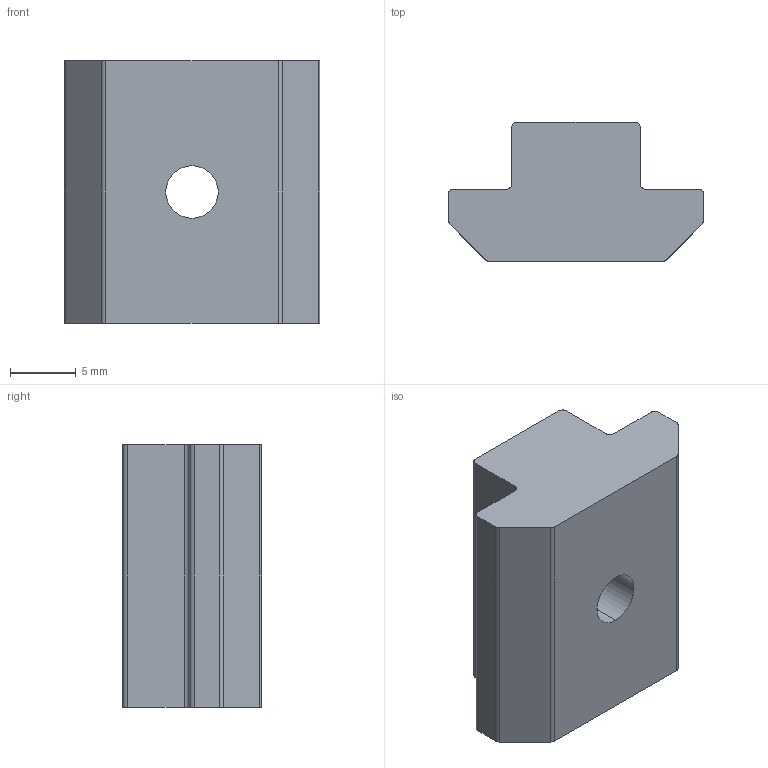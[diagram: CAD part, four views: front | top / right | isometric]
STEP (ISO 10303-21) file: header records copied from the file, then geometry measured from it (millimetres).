
FILE_DESCRIPTION (( 'STEP AP214' ), '1' );
FILE_NAME ('096035.STEP', '2012-02-22T10:24:28', ( 'de01pc046' ), ( 'Fath GmbH' ), 'SwSTEP 2.0', 'SolidWorks 2011', '' );
FILE_SCHEMA (( 'AUTOMOTIVE_DESIGN' ));
Length unit declared in the file: millimetre
Products named in the file (1): 096035
Bounding box: 19.5 x 10.6 x 20 mm (x, y, z)
Volume: 2829.7 mm3; surface area: 1516.1 mm2
Topology: 1 solids, 1 shells, 24 faces, 66 edges, 44 vertices
Faces by surface type: cylinder 12, plane 12
Entity records: 812 total; most frequent: DIRECTION 140, CARTESIAN_POINT 135, ORIENTED_EDGE 132, EDGE_CURVE 66, AXIS2_PLACEMENT_3D 49, VERTEX_POINT 44, VECTOR 42, LINE 42
